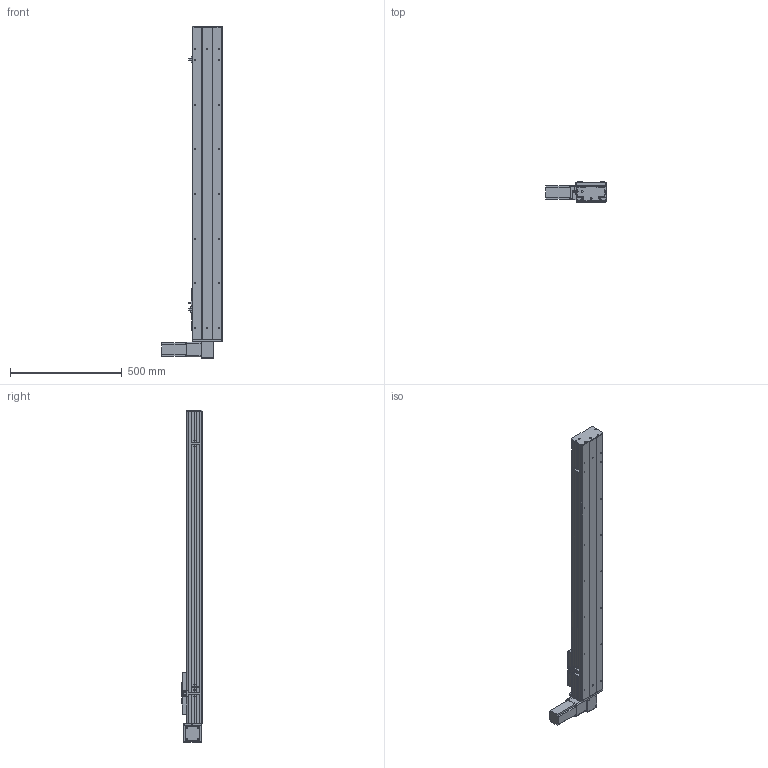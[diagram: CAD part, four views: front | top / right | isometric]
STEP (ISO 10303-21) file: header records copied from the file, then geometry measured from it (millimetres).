
FILE_DESCRIPTION (( 'STEP AP203' ), '1' );
FILE_NAME ('Y135CB-D90-S1100-BD-P400W.STEP', '2020-02-19T03:33:36', ( '微软用户' ), ( '微软中国' ), 'SwSTEP 2.0', 'SolidWorks 2017', '' );
FILE_SCHEMA (( 'CONFIG_CONTROL_DESIGN' ));
Length unit declared in the file: millimetre
Products named in the file (16): Y100-135俋离換覜ん--; 0B-埴倛裔啣; Y135C-陔俋离換覜結え-; 0B-源倛裔啣; 5C--俋欶; san松下电机400不带刹车----; C-雄赽釱--; 5CB --掛极耜裔啣-; Y10B--々湍喘謫眊--666; C-詩湍揤踡え-陔; 0B-薊粣ん眊; 135CB--詩湍-CE; Y135CB-耜裔; Y135CB-D90-S1100-BD-P400W; 135CB---遴掛极.-; 35CB---喘謫眊楊擘啣
Assembly tree (19 placements, depth 2):
  Y135CB-D90-S1100-BD-P400W
    Y135CB-耜裔
    135CB---遴掛极.-
    35CB---喘謫眊楊擘啣
    0B-埴倛裔啣
    0B-源倛裔啣
    san松下电机400不带刹车----
    5CB --掛极耜裔啣-  x2
    C-詩湍揤踡え-陔  x2
    135CB--詩湍-CE
    Y100-135俋离換覜ん--  x3
    Y135C-陔俋离換覜結え-
    5C--俋欶
    C-雄赽釱--
    Y10B--々湍喘謫眊--666
    0B-薊粣ん眊
Bounding box: 272 x 91 x 1488 mm (x, y, z)
Volume: 4646369.6 mm3; surface area: 1776801.5 mm2
Topology: 19 solids, 19 shells, 859 faces, 2284 edges, 1512 vertices
Faces by surface type: cylinder 428, plane 415, cone 16
Entity records: 26208 total; most frequent: DIRECTION 4368, CARTESIAN_POINT 4291, ORIENTED_EDGE 4044, EDGE_CURVE 2022, AXIS2_PLACEMENT_3D 1601, VERTEX_POINT 1340, LINE 1166, VECTOR 1166
